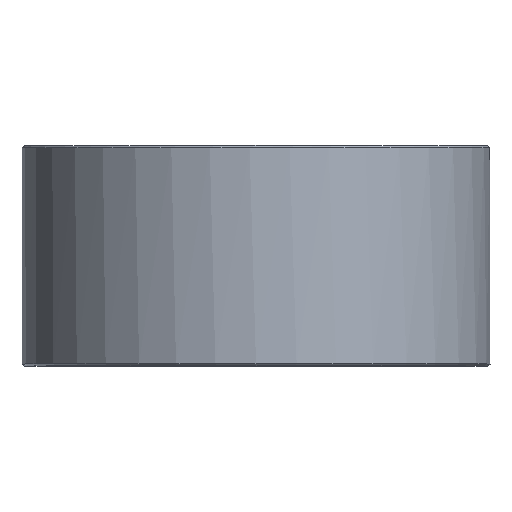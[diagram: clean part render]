
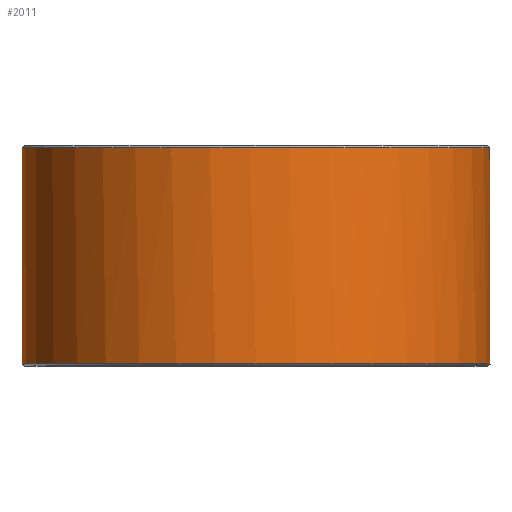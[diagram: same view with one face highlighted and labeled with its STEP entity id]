
A CAD part, top view. The second image highlights one B-rep face of the part: STEP entity #2011.
In plain terms, the highlighted cylindrical face has radius 85 mm (diameter 170 mm), a full revolution.
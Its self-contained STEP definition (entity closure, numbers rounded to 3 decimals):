
#23=FACE_BOUND('',#402,.T.);
#24=FACE_BOUND('',#403,.T.);
#90=CIRCLE('',#2179,85.);
#93=CIRCLE('',#2184,85.);
#94=CIRCLE('',#2189,85.);
#95=CIRCLE('',#2190,85.);
#96=CIRCLE('',#2191,85.);
#97=CIRCLE('',#2192,85.);
#98=CIRCLE('',#2193,85.);
#99=CIRCLE('',#2194,85.);
#100=CIRCLE('',#2195,85.);
#101=CIRCLE('',#2196,85.);
#260=FACE_OUTER_BOUND('',#401,.T.);
#401=EDGE_LOOP('',(#1564,#1565,#1566,#1567,#1568,#1569,#1570,#1571,#1572,
#1573,#1574,#1575));
#402=EDGE_LOOP('',(#1576,#1577,#1578,#1579));
#403=EDGE_LOOP('',(#1580,#1581,#1582,#1583));
#553=LINE('',#3127,#721);
#564=LINE('',#3152,#732);
#570=LINE('',#3246,#738);
#571=LINE('',#3250,#739);
#572=LINE('',#3254,#740);
#573=LINE('',#3259,#741);
#574=LINE('',#3262,#742);
#575=LINE('',#3265,#743);
#576=LINE('',#3269,#744);
#721=VECTOR('',#2459,10.);
#732=VECTOR('',#2480,10.);
#738=VECTOR('',#2512,10.);
#739=VECTOR('',#2515,10.);
#740=VECTOR('',#2518,85.);
#741=VECTOR('',#2523,10.);
#742=VECTOR('',#2526,10.);
#743=VECTOR('',#2527,10.);
#744=VECTOR('',#2530,10.);
#955=VERTEX_POINT('',#3071);
#964=VERTEX_POINT('',#3112);
#967=VERTEX_POINT('',#3121);
#971=VERTEX_POINT('',#3143);
#974=VERTEX_POINT('',#3242);
#975=VERTEX_POINT('',#3243);
#976=VERTEX_POINT('',#3245);
#977=VERTEX_POINT('',#3247);
#978=VERTEX_POINT('',#3249);
#979=VERTEX_POINT('',#3251);
#980=VERTEX_POINT('',#3253);
#981=VERTEX_POINT('',#3256);
#982=VERTEX_POINT('',#3258);
#983=VERTEX_POINT('',#3260);
#984=VERTEX_POINT('',#3263);
#985=VERTEX_POINT('',#3264);
#986=VERTEX_POINT('',#3266);
#987=VERTEX_POINT('',#3268);
#1152=EDGE_CURVE('',#955,#967,#553,.T.);
#1164=EDGE_CURVE('',#971,#964,#564,.T.);
#1168=EDGE_CURVE('',#967,#971,#90,.T.);
#1173=EDGE_CURVE('',#964,#955,#93,.T.);
#1180=EDGE_CURVE('',#974,#975,#94,.T.);
#1181=EDGE_CURVE('',#976,#974,#570,.T.);
#1182=EDGE_CURVE('',#977,#976,#95,.T.);
#1183=EDGE_CURVE('',#978,#977,#571,.T.);
#1184=EDGE_CURVE('',#979,#978,#96,.T.);
#1185=EDGE_CURVE('',#979,#980,#572,.T.);
#1186=EDGE_CURVE('',#980,#980,#97,.T.);
#1187=EDGE_CURVE('',#981,#979,#98,.T.);
#1188=EDGE_CURVE('',#982,#981,#573,.T.);
#1189=EDGE_CURVE('',#983,#982,#99,.T.);
#1190=EDGE_CURVE('',#975,#983,#574,.T.);
#1191=EDGE_CURVE('',#984,#985,#575,.T.);
#1192=EDGE_CURVE('',#986,#984,#100,.T.);
#1193=EDGE_CURVE('',#987,#986,#576,.T.);
#1194=EDGE_CURVE('',#985,#987,#101,.T.);
#1564=ORIENTED_EDGE('',*,*,#1180,.F.);
#1565=ORIENTED_EDGE('',*,*,#1181,.F.);
#1566=ORIENTED_EDGE('',*,*,#1182,.F.);
#1567=ORIENTED_EDGE('',*,*,#1183,.F.);
#1568=ORIENTED_EDGE('',*,*,#1184,.F.);
#1569=ORIENTED_EDGE('',*,*,#1185,.T.);
#1570=ORIENTED_EDGE('',*,*,#1186,.F.);
#1571=ORIENTED_EDGE('',*,*,#1185,.F.);
#1572=ORIENTED_EDGE('',*,*,#1187,.F.);
#1573=ORIENTED_EDGE('',*,*,#1188,.F.);
#1574=ORIENTED_EDGE('',*,*,#1189,.F.);
#1575=ORIENTED_EDGE('',*,*,#1190,.F.);
#1576=ORIENTED_EDGE('',*,*,#1191,.F.);
#1577=ORIENTED_EDGE('',*,*,#1192,.F.);
#1578=ORIENTED_EDGE('',*,*,#1193,.F.);
#1579=ORIENTED_EDGE('',*,*,#1194,.F.);
#1580=ORIENTED_EDGE('',*,*,#1164,.F.);
#1581=ORIENTED_EDGE('',*,*,#1168,.F.);
#1582=ORIENTED_EDGE('',*,*,#1152,.F.);
#1583=ORIENTED_EDGE('',*,*,#1173,.F.);
#1962=CYLINDRICAL_SURFACE('',#2188,85.);
#2011=ADVANCED_FACE('',(#260,#23,#24),#1962,.T.);
#2179=AXIS2_PLACEMENT_3D('',#3158,#2488,#2489);
#2184=AXIS2_PLACEMENT_3D('',#3165,#2500,#2501);
#2188=AXIS2_PLACEMENT_3D('',#3241,#2508,#2509);
#2189=AXIS2_PLACEMENT_3D('',#3244,#2510,#2511);
#2190=AXIS2_PLACEMENT_3D('',#3248,#2513,#2514);
#2191=AXIS2_PLACEMENT_3D('',#3252,#2516,#2517);
#2192=AXIS2_PLACEMENT_3D('',#3255,#2519,#2520);
#2193=AXIS2_PLACEMENT_3D('',#3257,#2521,#2522);
#2194=AXIS2_PLACEMENT_3D('',#3261,#2524,#2525);
#2195=AXIS2_PLACEMENT_3D('',#3267,#2528,#2529);
#2196=AXIS2_PLACEMENT_3D('',#3270,#2531,#2532);
#2459=DIRECTION('',(0.,-1.,0.));
#2480=DIRECTION('',(0.,1.,0.));
#2488=DIRECTION('center_axis',(0.,1.,0.));
#2489=DIRECTION('ref_axis',(-1.,0.,0.));
#2500=DIRECTION('center_axis',(0.,-1.,0.));
#2501=DIRECTION('ref_axis',(-1.,0.,0.));
#2508=DIRECTION('center_axis',(0.,1.,0.));
#2509=DIRECTION('ref_axis',(1.,0.,0.));
#2510=DIRECTION('center_axis',(0.,1.,0.));
#2511=DIRECTION('ref_axis',(1.,0.,0.));
#2512=DIRECTION('',(0.,1.,0.));
#2513=DIRECTION('center_axis',(0.,1.,0.));
#2514=DIRECTION('ref_axis',(1.,0.,0.));
#2515=DIRECTION('',(0.,-1.,0.));
#2516=DIRECTION('center_axis',(0.,1.,0.));
#2517=DIRECTION('ref_axis',(1.,0.,0.));
#2518=DIRECTION('',(0.,-1.,0.));
#2519=DIRECTION('center_axis',(0.,-1.,0.));
#2520=DIRECTION('ref_axis',(1.,0.,0.));
#2521=DIRECTION('center_axis',(0.,1.,0.));
#2522=DIRECTION('ref_axis',(1.,0.,0.));
#2523=DIRECTION('',(0.,1.,0.));
#2524=DIRECTION('center_axis',(0.,1.,0.));
#2525=DIRECTION('ref_axis',(-1.,0.,0.));
#2526=DIRECTION('',(0.,-1.,0.));
#2527=DIRECTION('',(0.,1.,0.));
#2528=DIRECTION('center_axis',(0.,1.,0.));
#2529=DIRECTION('ref_axis',(1.,0.,0.));
#2530=DIRECTION('',(0.,-1.,0.));
#2531=DIRECTION('center_axis',(0.,-1.,0.));
#2532=DIRECTION('ref_axis',(1.,0.,0.));
#3071=CARTESIAN_POINT('',(-33.835,38.25,-77.976));
#3112=CARTESIAN_POINT('',(-47.772,38.25,-70.306));
#3121=CARTESIAN_POINT('',(-33.835,9.25,-77.976));
#3127=CARTESIAN_POINT('',(-33.835,0.,-77.976));
#3143=CARTESIAN_POINT('',(-47.772,9.25,-70.306));
#3152=CARTESIAN_POINT('',(-47.772,0.,-70.306));
#3158=CARTESIAN_POINT('Origin',(0.,9.25,0.));
#3165=CARTESIAN_POINT('Origin',(0.,38.25,0.));
#3241=CARTESIAN_POINT('Origin',(0.,0.,0.));
#3242=CARTESIAN_POINT('',(33.835,79.25,-77.976));
#3243=CARTESIAN_POINT('',(-33.835,79.25,-77.976));
#3244=CARTESIAN_POINT('Origin',(0.,79.25,0.));
#3245=CARTESIAN_POINT('',(33.835,51.75,-77.976));
#3246=CARTESIAN_POINT('',(33.835,0.,-77.976));
#3247=CARTESIAN_POINT('',(47.772,51.75,-70.306));
#3248=CARTESIAN_POINT('Origin',(0.,51.75,0.));
#3249=CARTESIAN_POINT('',(47.772,79.25,-70.306));
#3250=CARTESIAN_POINT('',(47.772,0.,-70.306));
#3251=CARTESIAN_POINT('',(-85.,79.25,0.));
#3252=CARTESIAN_POINT('Origin',(0.,79.25,0.));
#3253=CARTESIAN_POINT('',(-85.,0.75,0.));
#3254=CARTESIAN_POINT('',(-85.,0.,0.));
#3255=CARTESIAN_POINT('Origin',(0.,0.75,0.));
#3256=CARTESIAN_POINT('',(-47.772,79.25,-70.306));
#3257=CARTESIAN_POINT('Origin',(0.,79.25,0.));
#3258=CARTESIAN_POINT('',(-47.772,51.75,-70.306));
#3259=CARTESIAN_POINT('',(-47.772,0.,-70.306));
#3260=CARTESIAN_POINT('',(-33.835,51.75,-77.976));
#3261=CARTESIAN_POINT('Origin',(0.,51.75,0.));
#3262=CARTESIAN_POINT('',(-33.835,0.,-77.976));
#3263=CARTESIAN_POINT('',(33.835,9.25,-77.976));
#3264=CARTESIAN_POINT('',(33.835,38.25,-77.976));
#3265=CARTESIAN_POINT('',(33.835,0.,-77.976));
#3266=CARTESIAN_POINT('',(47.772,9.25,-70.306));
#3267=CARTESIAN_POINT('Origin',(0.,9.25,0.));
#3268=CARTESIAN_POINT('',(47.772,38.25,-70.306));
#3269=CARTESIAN_POINT('',(47.772,0.,-70.306));
#3270=CARTESIAN_POINT('Origin',(0.,38.25,0.));
